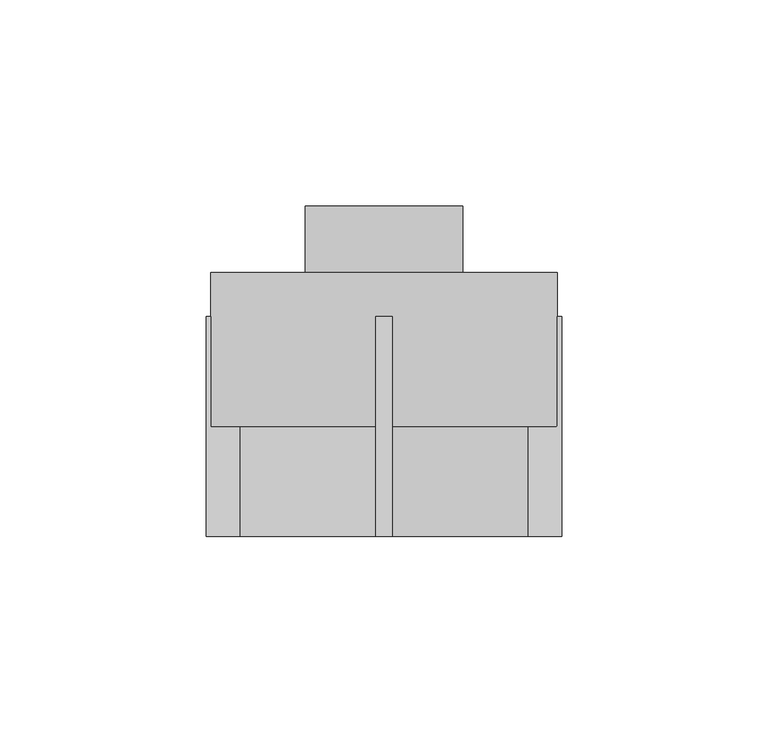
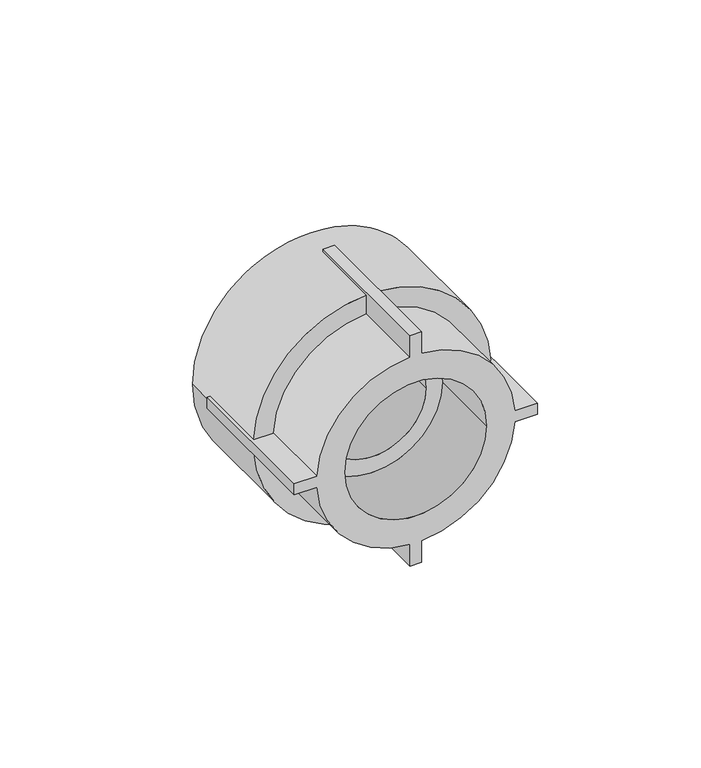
"""IFC4 building model written with IfcOpenShell, lengths in millimetres: pipe fitting geometry, EGB_VASEN_ PPR_Entronque rosca hembra WXR102 : Entronque rosca hembra WXR102."""

from ifc_helpers import new_model, si_unit, point, frame, origin, origin_2d, place, context, project, spatial, polyline, circle_curve, trimmed, segment, composite_curve, outline, extrude, source, transform, mapped, element, save
from ifc_brep_helpers import plane_surface, cylinder_surface, revolved_surface, advanced_brep


def pipe_fitting_2ca7db49(model_context):
    return source(origin(), model_context, "Body", "SolidModel", [
        advanced_brep(
        [(2.0, -26.6666667, 43.0), (-2.0, -26.6666667, 43.0), (-2.0, -26.6666667, 34.9428104), (-34.9428104, -26.6666667, 2.0), (-43.0, -26.6666667, 2.0), (-43.0, -26.6666667, -2.0), (-34.9428104, -26.6666667, -2.0), (-2.0, -26.6666667, -34.9428104), (-2.0, -26.6666667, -43.0), (2.0, -26.6666667, -43.0), (2.0, -26.6666667, -34.9428104), (34.9428104, -26.6666667, -2.0), (43.0, -26.6666667, -2.0), (43.0, -26.6666667, 2.0), (34.9428104, -26.6666667, 2.0), (2.0, -26.6666667, 34.9428104), (-25.0, -26.6666667, 0.0), (25.0, -26.6666667, 0.0), (-2.0, 26.6666667, 43.0), (2.0, 26.6666667, 43.0), (2.0, 26.6666667, 41.9523539), (-2.0, 26.6666667, 41.9523539), (2.0, 26.6666667, -43.0), (-2.0, 26.6666667, -43.0), (-2.0, 26.6666667, -41.9523539), (2.0, 26.6666667, -41.9523539), (43.0, 26.6666667, 2.0), (43.0, 26.6666667, -2.0), (41.9523539, 26.6666667, -2.0), (42.0, 26.6666667, 0.0), (41.9523539, 26.6666667, 2.0), (-43.0, 26.6666667, -2.0), (-43.0, 26.6666667, 2.0), (-41.9523539, 26.6666667, 2.0), (-42.0, 26.6666667, 0.0), (-41.9523539, 26.6666667, -2.0), (2.0, 0.0, 34.9428104), (2.0, 0.0, 41.9523539), (-2.0, 0.0, 41.9523539), (-2.0, 0.0, 34.9428104), (2.0, 0.0, -41.9523539), (2.0, 0.0, -34.9428104), (-2.0, 0.0, -34.9428104), (-2.0, 0.0, -41.9523539), (34.9428104, 0.0, -2.0), (41.9523539, 0.0, -2.0), (41.9523539, 0.0, 2.0), (34.9428104, 0.0, 2.0), (-41.9523539, 0.0, -2.0), (-34.9428104, 0.0, -2.0), (-34.9428104, 0.0, 2.0), (-41.9523539, 0.0, 2.0), (-25.0, 0.0, 0.0), (25.0, 0.0, 0.0), (-19.05, 0.0, 0.0), (19.05, 0.0, 0.0), (-42.0, 37.3333333, 0.0), (42.0, 37.3333333, 0.0), (-19.05, 37.3333333, 0.0), (19.05, 37.3333333, 0.0)],
        [
            (0, 1),
            (1, 2),
            (2, 3, circle_curve(frame((0.0, -26.6666667, 0.0), z_axis=(0.0, -1.0, 0.0), x_axis=(1.0, 0.0, 0.0)), 35.0)),
            (3, 4),
            (4, 5),
            (5, 6),
            (6, 7, circle_curve(frame((0.0, -26.6666667, 0.0), z_axis=(0.0, -1.0, 0.0), x_axis=(1.0, 0.0, 0.0)), 35.0)),
            (7, 8),
            (8, 9),
            (9, 10),
            (10, 11, circle_curve(frame((0.0, -26.6666667, 0.0), z_axis=(0.0, -1.0, 0.0), x_axis=(1.0, 0.0, 0.0)), 35.0)),
            (11, 12),
            (12, 13),
            (13, 14),
            (14, 15, circle_curve(frame((0.0, -26.6666667, 0.0), z_axis=(0.0, -1.0, 0.0), x_axis=(1.0, 0.0, 0.0)), 35.0)),
            (15, 0),
            (16, 17, circle_curve(frame((0.0, -26.6666667, 0.0), z_axis=(0.0, 1.0, 0.0), x_axis=(1.0, 0.0, 0.0)), 25.0)),
            (17, 16, circle_curve(frame((0.0, -26.6666667, 0.0), z_axis=(0.0, 1.0, 0.0), x_axis=(1.0, 0.0, 0.0)), 25.0)),
            (18, 19),
            (19, 20),
            (20, 21, circle_curve(frame((0.0, 26.6666667, 0.0), z_axis=(0.0, -1.0, 0.0), x_axis=(1.0, 0.0, 0.0)), 42.0)),
            (21, 18),
            (22, 23),
            (23, 24),
            (24, 25, circle_curve(frame((0.0, 26.6666667, 0.0), z_axis=(0.0, -1.0, 0.0), x_axis=(1.0, 0.0, 0.0)), 42.0)),
            (25, 22),
            (26, 27),
            (27, 28),
            (28, 29, circle_curve(frame((0.0, 26.6666667, 0.0), z_axis=(0.0, -1.0, 0.0), x_axis=(1.0, 0.0, 0.0)), 42.0)),
            (29, 30, circle_curve(frame((0.0, 26.6666667, 0.0), z_axis=(0.0, -1.0, 0.0), x_axis=(1.0, 0.0, 0.0)), 42.0)),
            (30, 26),
            (31, 32),
            (32, 33),
            (33, 34, circle_curve(frame((0.0, 26.6666667, 0.0), z_axis=(0.0, -1.0, 0.0), x_axis=(1.0, 0.0, 0.0)), 42.0)),
            (34, 35, circle_curve(frame((0.0, 26.6666667, 0.0), z_axis=(0.0, -1.0, 0.0), x_axis=(1.0, 0.0, 0.0)), 42.0)),
            (35, 31),
            (19, 0),
            (15, 36),
            (36, 37),
            (37, 20),
            (18, 1),
            (21, 38),
            (38, 39),
            (39, 2),
            (8, 23),
            (22, 9),
            (25, 40),
            (40, 41),
            (41, 10),
            (7, 42),
            (42, 43),
            (43, 24),
            (27, 12),
            (11, 44),
            (44, 45),
            (45, 28),
            (26, 13),
            (30, 46),
            (46, 47),
            (47, 14),
            (5, 31),
            (35, 48),
            (48, 49),
            (49, 6),
            (32, 4),
            (3, 50),
            (50, 51),
            (51, 33),
            (49, 42, circle_curve(frame((0.0, 0.0, 0.0), z_axis=(0.0, -1.0, 0.0), x_axis=(1.0, 0.0, 0.0)), 35.0)),
            (41, 44, circle_curve(frame((0.0, 0.0, 0.0), z_axis=(0.0, -1.0, 0.0), x_axis=(1.0, 0.0, 0.0)), 35.0)),
            (39, 50, circle_curve(frame((0.0, 0.0, 0.0), z_axis=(0.0, -1.0, 0.0), x_axis=(1.0, 0.0, 0.0)), 35.0)),
            (47, 36, circle_curve(frame((0.0, 0.0, 0.0), z_axis=(0.0, -1.0, 0.0), x_axis=(1.0, 0.0, 0.0)), 35.0)),
            (16, 52),
            (52, 53, circle_curve(frame((0.0, 0.0, 0.0), z_axis=(0.0, 1.0, 0.0), x_axis=(1.0, 0.0, 0.0)), 25.0)),
            (53, 17),
            (53, 52, circle_curve(frame((0.0, 0.0, 0.0), z_axis=(0.0, 1.0, 0.0), x_axis=(1.0, 0.0, 0.0)), 25.0)),
            (54, 55, circle_curve(frame((0.0, 0.0, 0.0), z_axis=(0.0, 1.0, 0.0), x_axis=(1.0, 0.0, 0.0)), 19.05)),
            (55, 54, circle_curve(frame((0.0, 0.0, 0.0), z_axis=(0.0, 1.0, 0.0), x_axis=(1.0, 0.0, 0.0)), 19.05)),
            (40, 45, circle_curve(frame((0.0, 0.0, 0.0), z_axis=(0.0, -1.0, 0.0), x_axis=(1.0, 0.0, 0.0)), 42.0)),
            (48, 43, circle_curve(frame((0.0, 0.0, 0.0), z_axis=(0.0, -1.0, 0.0), x_axis=(1.0, 0.0, 0.0)), 42.0)),
            (46, 37, circle_curve(frame((0.0, 0.0, 0.0), z_axis=(0.0, -1.0, 0.0), x_axis=(1.0, 0.0, 0.0)), 42.0)),
            (38, 51, circle_curve(frame((0.0, 0.0, 0.0), z_axis=(0.0, -1.0, 0.0), x_axis=(1.0, 0.0, 0.0)), 42.0)),
            (56, 57, circle_curve(frame((0.0, 37.3333333, 0.0), z_axis=(0.0, 1.0, 0.0), x_axis=(1.0, 0.0, 0.0)), 42.0)),
            (57, 56, circle_curve(frame((0.0, 37.3333333, 0.0), z_axis=(0.0, 1.0, 0.0), x_axis=(1.0, 0.0, 0.0)), 42.0)),
            (58, 59, circle_curve(frame((0.0, 37.3333333, 0.0), z_axis=(0.0, -1.0, 0.0), x_axis=(1.0, 0.0, 0.0)), 19.05)),
            (59, 58, circle_curve(frame((0.0, 37.3333333, 0.0), z_axis=(0.0, -1.0, 0.0), x_axis=(1.0, 0.0, 0.0)), 19.05)),
            (57, 29),
            (34, 56),
            (54, 58),
            (59, 55),
        ],
        [
            plane_surface(frame((0.0, -26.6666667, 0.0), z_axis=(0.0, -1.0, 0.0), x_axis=(0.0, 0.0, 1.0))),
            plane_surface(frame((0.0, 26.6666667, 0.0), z_axis=(0.0, 1.0, 0.0), x_axis=(0.0, 0.0, 1.0))),
            plane_surface(frame((2.0, -26.6666667, 34.0), z_axis=(1.0, 0.0, 0.0), x_axis=(0.0, 1.0, 0.0))),
            plane_surface(frame((2.0, -26.6666667, 43.0), z_axis=(0.0, 0.0, 1.0), x_axis=(0.0, 1.0, 0.0))),
            plane_surface(frame((-2.0, -26.6666667, 43.0), z_axis=(-1.0, 0.0, 0.0), x_axis=(0.0, 1.0, 0.0))),
            plane_surface(frame((-2.0, -26.6666667, -43.0), z_axis=(0.0, 0.0, -1.0), x_axis=(0.0, 1.0, 0.0))),
            plane_surface(frame((2.0, -26.6666667, -43.0), z_axis=(1.0, 0.0, 0.0), x_axis=(0.0, 1.0, 0.0))),
            plane_surface(frame((-2.0, -26.6666667, -34.0), z_axis=(-1.0, 0.0, 0.0), x_axis=(0.0, 1.0, 0.0))),
            plane_surface(frame((34.0, -26.6666667, -2.0), z_axis=(0.0, 0.0, -1.0), x_axis=(0.0, 1.0, 0.0))),
            plane_surface(frame((43.0, -26.6666667, -2.0), z_axis=(1.0, 0.0, 0.0), x_axis=(0.0, 1.0, 0.0))),
            plane_surface(frame((43.0, -26.6666667, 2.0), z_axis=(0.0, 0.0, 1.0), x_axis=(0.0, 1.0, 0.0))),
            plane_surface(frame((-43.0, -26.6666667, -2.0), z_axis=(0.0, 0.0, -1.0), x_axis=(0.0, 1.0, 0.0))),
            plane_surface(frame((-34.0, -26.6666667, 2.0), z_axis=(0.0, 0.0, 1.0), x_axis=(0.0, 1.0, 0.0))),
            plane_surface(frame((-43.0, -26.6666667, 2.0), z_axis=(-1.0, 0.0, 0.0), x_axis=(0.0, 1.0, 0.0))),
            cylinder_surface(frame((0.0, 0.0, 0.0), z_axis=(0.0, -1.0, 0.0), x_axis=(1.0, 0.0, 0.0)), 35.0),
            revolved_surface(polyline([(25.0, 0.0, 0.0), (25.0, -26.6666667, 0.0)]), (0.0, 0.0, 0.0), (0.0, 1.0, 0.0)),
            plane_surface(frame((42.0, 0.0, 0.0), z_axis=(0.0, -1.0, 0.0), x_axis=(0.0, 0.0, 1.0))),
            plane_surface(frame((42.0, 37.3333333, 0.0), z_axis=(0.0, 1.0, 0.0), x_axis=(0.0, 0.0, -1.0))),
            cylinder_surface(frame((0.0, 37.3333333, 0.0), z_axis=(0.0, -1.0, 0.0), x_axis=(1.0, 0.0, 0.0)), 42.0),
            revolved_surface(polyline([(19.05, 37.3333333, 0.0), (19.05, 0.0, 0.0)]), (0.0, 0.0, 0.0), (0.0, 1.0, 0.0)),
        ],
        [
            (0, [[1, 2, 3, 4, 5, 6, 7, 8, 9, 10, 11, 12, 13, 14, 15, 16], [17, 18]]),
            (1, [[19, 20, 21, 22]]),
            (1, [[23, 24, 25, 26]]),
            (1, [[27, 28, 29, 30, 31]]),
            (1, [[32, 33, 34, 35, 36]]),
            (2, [[37, -16, 38, 39, 40, -20]]),
            (3, [[-1, -37, -19, 41]]),
            (4, [[-41, -22, 42, 43, 44, -2]]),
            (5, [[-9, 45, -23, 46]]),
            (6, [[-46, -26, 47, 48, 49, -10]]),
            (7, [[-45, -8, 50, 51, 52, -24]]),
            (8, [[53, -12, 54, 55, 56, -28]]),
            (9, [[-13, -53, -27, 57]]),
            (10, [[-57, -31, 58, 59, 60, -14]]),
            (11, [[61, -36, 62, 63, 64, -6]]),
            (12, [[65, -4, 66, 67, 68, -33]]),
            (13, [[-5, -65, -32, -61]]),
            (14, [[-7, -64, 69, -50]]),
            (14, [[-11, -49, 70, -54]]),
            (14, [[-3, -44, 71, -66]]),
            (14, [[-15, -60, 72, -38]]),
            (15, [[-17, 73, 74, 75]]),
            (15, [[-18, -75, 76, -73]]),
            (16, [[-74, -76], [77, 78]]),
            (16, [[79, -55, -70, -48]]),
            (16, [[80, -51, -69, -63]]),
            (16, [[81, -39, -72, -59]]),
            (16, [[82, -67, -71, -43]]),
            (17, [[83, 84], [85, 86]]),
            (18, [[-84, 87, -29, -56, -79, -47, -25, -52, -80, -62, -35, 88]]),
            (18, [[-83, -88, -34, -68, -82, -42, -21, -40, -81, -58, -30, -87]]),
            (19, [[-77, 89, -86, 90]]),
            (19, [[-78, -90, -85, -89]]),
        ],
    ),
        extrude(outline(composite_curve([segment(trimmed(circle_curve(origin_2d(), 19.05), [point((0.0, -19.05))], [point((0.0, 19.05))], False, "CARTESIAN"), True, "CONTINUOUS"), segment(trimmed(circle_curve(origin_2d(), 19.05), [point((0.0, 19.05))], [point((0.0, -19.05))], False, "CARTESIAN"), True, "CONTINUOUS")], self_intersect=False)), frame((0.0, 26.6666667, 0.0), z_axis=(0.0, 1.0, 0.0), x_axis=(0.0, 0.0, 1.0)), (0.0, 0.0, 1.0), 26.6666667),
    ])


if __name__ == "__main__":
    model = new_model("IFC4")
    model_context = context("Model", 3, world=origin())
    ifc_project = project(units=[si_unit("LENGTHUNIT", "METRE", prefix="MILLI")], contexts=[model_context])
    site = spatial("IfcSite", under=ifc_project)
    building = spatial("IfcBuilding", under=site)
    placement = place(None, origin())
    pipe_fitting_shape = pipe_fitting_2ca7db49(model_context)
    element("IfcPipeFitting", 1, ObjectType="EGB_VASEN_ PPR_Entronque rosca hembra WXR102 : Entronque rosca hembra WXR102", at=placement, inside=building, context=model_context, shape_type="MappedRepresentation", body=[
        mapped(pipe_fitting_shape, transform((0.0, 0.0, 0.0), x_axis=(1.0, 0.0, 0.0), y_axis=(0.0, 1.0, 0.0), z_axis=(0.0, 0.0, 1.0))),
    ])
    save(model, "model.ifc")
